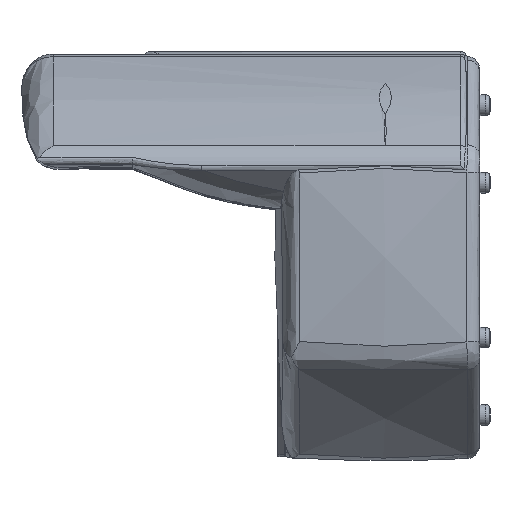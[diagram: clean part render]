
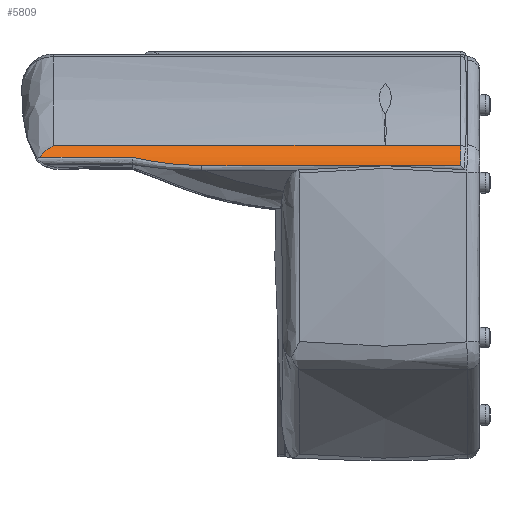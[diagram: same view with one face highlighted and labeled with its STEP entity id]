
A CAD part, left-side view. The second image highlights one B-rep face of the part: STEP entity #5809.
In plain terms, the highlighted cylindrical face has radius 63.215 mm (diameter 126.43 mm), a partial arc.
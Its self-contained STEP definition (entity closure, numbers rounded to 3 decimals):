
#393=B_SPLINE_CURVE_WITH_KNOTS('',3,(#28360,#28361,#28362,#28363,#28364,
#28365,#28366),.UNSPECIFIED.,.F.,.F.,(4,1,2,4),(0.,4.605,
11.513,13.444),.UNSPECIFIED.);
#394=B_SPLINE_CURVE_WITH_KNOTS('',3,(#28377,#28378,#28379,#28380,#28381,
#28382,#28383,#28384),.UNSPECIFIED.,.F.,.F.,(4,2,2,4),(7.559,
8.953,11.542,11.547),.UNSPECIFIED.);
#881=LINE('',#28318,#1037);
#883=LINE('',#28368,#1039);
#884=LINE('',#28370,#1040);
#885=LINE('',#28374,#1041);
#886=LINE('',#28376,#1042);
#1037=VECTOR('',#7593,10.);
#1039=VECTOR('',#7597,10.);
#1040=VECTOR('',#7598,10.);
#1041=VECTOR('',#7601,10.);
#1042=VECTOR('',#7602,10.);
#1140=CYLINDRICAL_SURFACE('',#6420,63.215);
#1457=FACE_OUTER_BOUND('',#1882,.T.);
#1882=EDGE_LOOP('',(#5070,#5071,#5072,#5073,#5074,#5075,#5076,#5077));
#2255=CIRCLE('',#6421,63.215);
#2725=VERTEX_POINT('',#28304);
#2726=VERTEX_POINT('',#28317);
#2729=VERTEX_POINT('',#28359);
#2730=VERTEX_POINT('',#28367);
#2731=VERTEX_POINT('',#28369);
#2732=VERTEX_POINT('',#28371);
#2733=VERTEX_POINT('',#28373);
#2734=VERTEX_POINT('',#28375);
#3522=EDGE_CURVE('',#2725,#2726,#881,.T.);
#3527=EDGE_CURVE('',#2729,#2725,#393,.T.);
#3528=EDGE_CURVE('',#2730,#2729,#883,.T.);
#3529=EDGE_CURVE('',#2731,#2730,#884,.T.);
#3530=EDGE_CURVE('',#2732,#2731,#2255,.T.);
#3531=EDGE_CURVE('',#2732,#2733,#885,.T.);
#3532=EDGE_CURVE('',#2733,#2734,#886,.T.);
#3533=EDGE_CURVE('',#2726,#2734,#394,.T.);
#5070=ORIENTED_EDGE('',*,*,#3527,.F.);
#5071=ORIENTED_EDGE('',*,*,#3528,.F.);
#5072=ORIENTED_EDGE('',*,*,#3529,.F.);
#5073=ORIENTED_EDGE('',*,*,#3530,.F.);
#5074=ORIENTED_EDGE('',*,*,#3531,.T.);
#5075=ORIENTED_EDGE('',*,*,#3532,.T.);
#5076=ORIENTED_EDGE('',*,*,#3533,.F.);
#5077=ORIENTED_EDGE('',*,*,#3522,.F.);
#5809=ADVANCED_FACE('',(#1457),#1140,.T.);
#6420=AXIS2_PLACEMENT_3D('',#28358,#7595,#7596);
#6421=AXIS2_PLACEMENT_3D('',#28372,#7599,#7600);
#7593=DIRECTION('',(0.,1.,0.));
#7595=DIRECTION('center_axis',(0.,1.,0.));
#7596=DIRECTION('ref_axis',(-0.996,0.,0.094));
#7597=DIRECTION('',(0.,1.,0.));
#7598=DIRECTION('',(0.,1.,0.));
#7599=DIRECTION('center_axis',(0.,-1.,0.));
#7600=DIRECTION('ref_axis',(-0.875,0.,0.483));
#7601=DIRECTION('',(0.,1.,0.));
#7602=DIRECTION('',(0.,1.,0.));
#28304=CARTESIAN_POINT('',(-13514.236,686.,3247.93));
#28317=CARTESIAN_POINT('',(-13514.236,865.076,3247.93));
#28318=CARTESIAN_POINT('',(-13514.236,686.,3247.93));
#28358=CARTESIAN_POINT('Origin',(-13457.312,366.,3220.438));
#28359=CARTESIAN_POINT('',(-13519.511,552.386,3231.73));
#28360=CARTESIAN_POINT('Ctrl Pts',(-13519.511,552.386,3231.73));
#28361=CARTESIAN_POINT('Ctrl Pts',(-13519.511,567.737,3231.73));
#28362=CARTESIAN_POINT('Ctrl Pts',(-13519.193,606.081,3233.619));
#28363=CARTESIAN_POINT('Ctrl Pts',(-13517.806,644.328,3239.403));
#28364=CARTESIAN_POINT('Ctrl Pts',(-13515.509,673.375,3245.159));
#28365=CARTESIAN_POINT('Ctrl Pts',(-13514.926,679.7,3246.501));
#28366=CARTESIAN_POINT('Ctrl Pts',(-13514.236,686.,3247.93));
#28367=CARTESIAN_POINT('',(-13519.511,200.845,3231.73));
#28368=CARTESIAN_POINT('',(-13519.511,366.,3231.73));
#28369=CARTESIAN_POINT('',(-13519.511,56.505,3231.73));
#28370=CARTESIAN_POINT('',(-13519.511,366.,3231.73));
#28371=CARTESIAN_POINT('',(-13495.864,56.505,3270.537));
#28372=CARTESIAN_POINT('Origin',(-13457.312,56.505,3220.438));
#28373=CARTESIAN_POINT('',(-13495.864,200.845,3270.537));
#28374=CARTESIAN_POINT('',(-13495.864,366.,3270.537));
#28375=CARTESIAN_POINT('',(-13495.864,837.5,3270.537));
#28376=CARTESIAN_POINT('',(-13495.864,366.,3270.537));
#28377=CARTESIAN_POINT('Ctrl Pts',(-13514.236,865.076,3247.93));
#28378=CARTESIAN_POINT('Ctrl Pts',(-13512.693,862.,3251.126));
#28379=CARTESIAN_POINT('Ctrl Pts',(-13510.907,858.842,3254.136));
#28380=CARTESIAN_POINT('Ctrl Pts',(-13505.242,849.726,3262.146));
#28381=CARTESIAN_POINT('Ctrl Pts',(-13500.834,843.613,3266.708));
#28382=CARTESIAN_POINT('Ctrl Pts',(-13495.882,837.523,3270.523));
#28383=CARTESIAN_POINT('Ctrl Pts',(-13495.873,837.511,3270.53));
#28384=CARTESIAN_POINT('Ctrl Pts',(-13495.864,837.5,3270.537));
